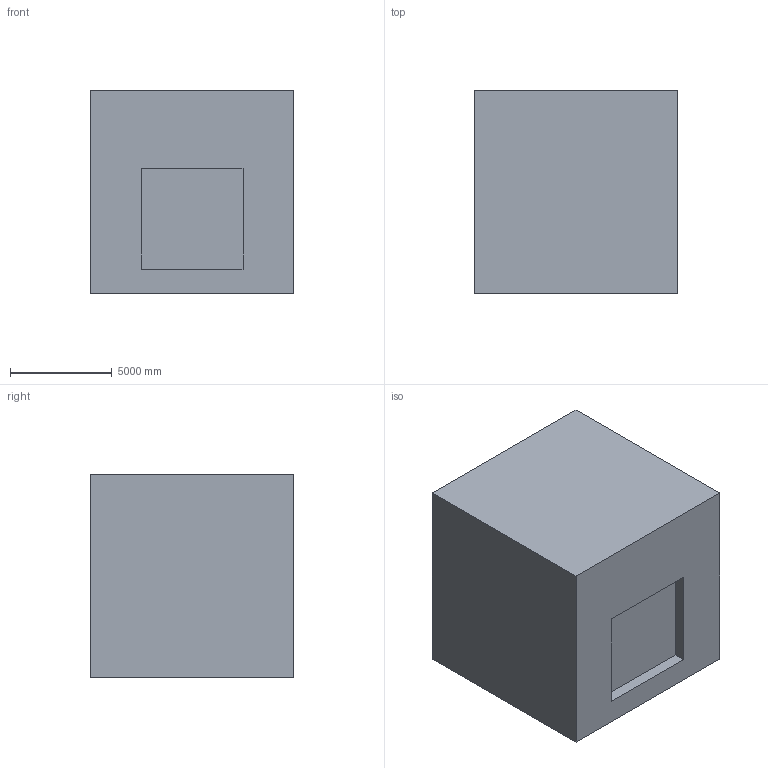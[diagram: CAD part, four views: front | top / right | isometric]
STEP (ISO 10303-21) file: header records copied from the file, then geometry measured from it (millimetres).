
FILE_DESCRIPTION (( 'STEP AP203' ), '1' );
FILE_NAME ('7.STEP', '2022-08-30T14:00:11', ( 'user' ), ( '' ), 'SwSTEP 2.0', 'SolidWorks 2021', '' );
FILE_SCHEMA (( 'CONFIG_CONTROL_DESIGN' ));
Length unit declared in the file: centimetre
Products named in the file (1): 7
Bounding box: 10000 x 10000 x 10000 mm (x, y, z)
Volume: 960383983481 mm3; surface area: 601956851.3 mm2
Topology: 1 solids, 1 shells, 13 faces, 30 edges, 20 vertices
Faces by surface type: plane 13
Entity records: 441 total; most frequent: CARTESIAN_POINT 64, ORIENTED_EDGE 60, DIRECTION 58, EDGE_CURVE 30, LINE 30, VECTOR 30, VERTEX_POINT 20, AXIS2_PLACEMENT_3D 14
